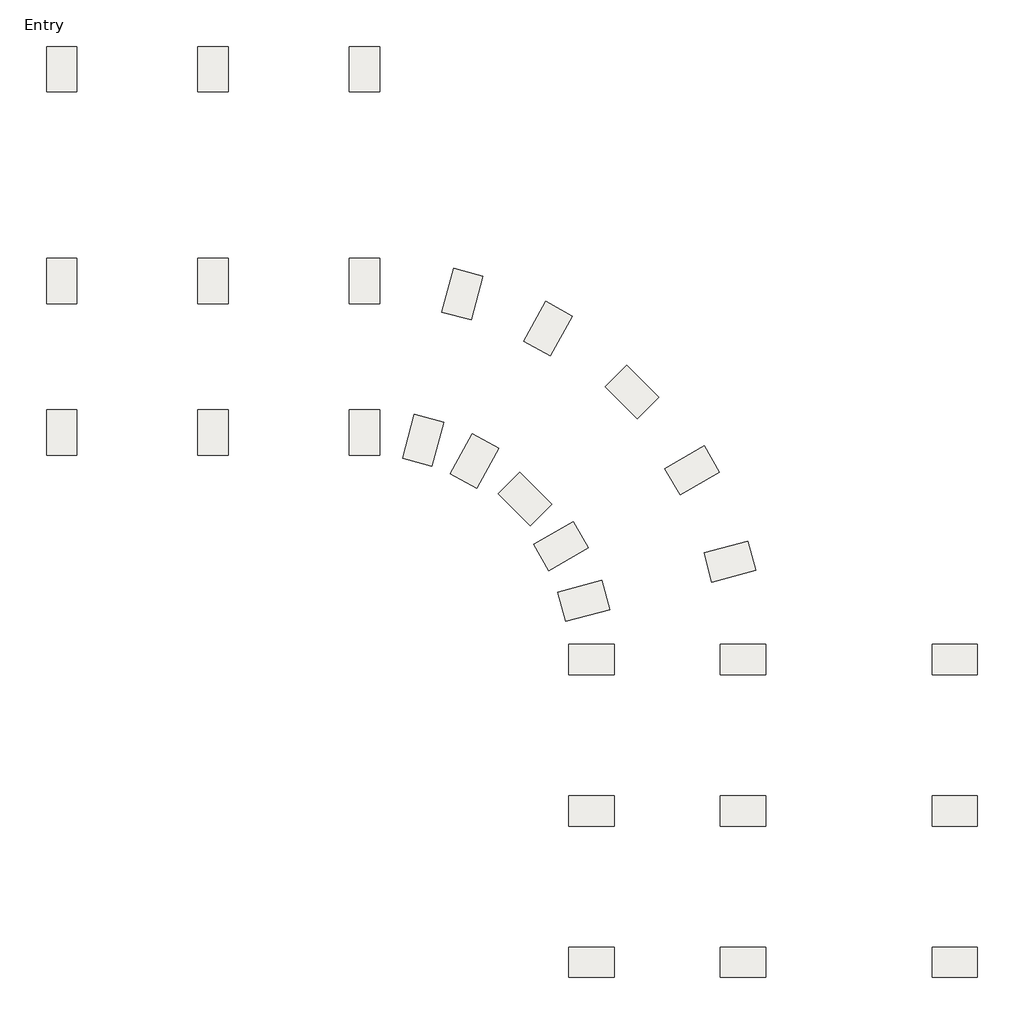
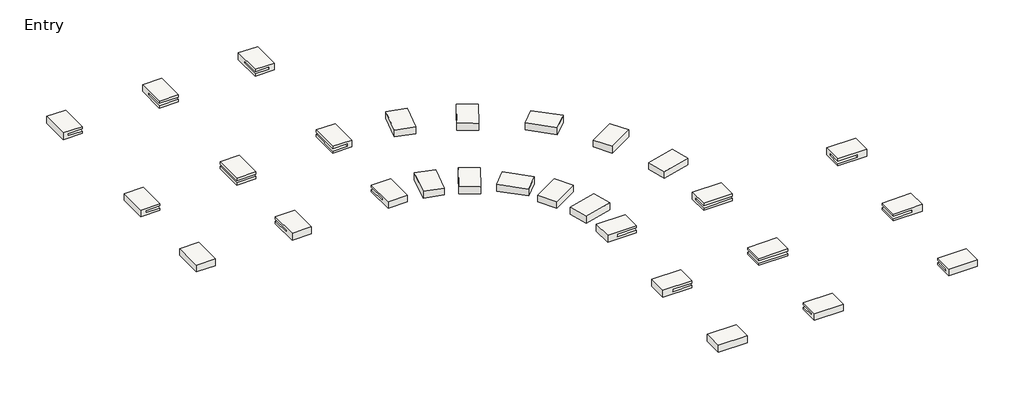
# One storey: 28 slabs.
"""IFC4 building model written with IfcOpenShell, lengths in millimetres."""

from ifc_helpers import new_model, si_unit, frame, origin, place, context, project, spatial, polyline, outline, extrude, faceted_brep, transform, mapped, element, save
from components import slab_5ba74754

model = new_model("IFC4")

# Units and contexts
model_context = context("Model", 3, world=origin())
ifc_project = project(units=[si_unit("LENGTHUNIT", "METRE", prefix="MILLI")], contexts=[model_context])

# Site, building, storey
site = spatial("IfcSite", under=ifc_project)
building = spatial("IfcBuilding", under=site)
storey = spatial("IfcBuildingStorey", under=building, Name="Entry", Elevation=0.0)

# Slabs
placement = place(None, origin())
element("IfcSlab", 1, ObjectType="Footing-Rectangular : 72\" x 48\" x 18\"", at=placement, inside=storey, context=model_context, shape_type="Brep", body=[
    faceted_brep([(-27022.0148109, 12313.049478, -1676.4), (-25802.8148109, 12313.049478, -1676.4), (-25802.8148109, 14141.849478, -1676.4), (-27022.0148109, 14141.849478, -1676.4), (-27022.0148109, 12313.049478, -2133.6), (-27022.0148109, 14141.849478, -2133.6), (-25802.8148109, 14141.849478, -2133.6), (-25802.8148109, 12313.049478, -2133.6), (-27022.0148109, 12313.049478, -1828.8), (-26107.6148109, 12313.049478, -1828.8), (-26107.6148109, 12313.049478, -1981.2), (-27022.0148109, 12313.049478, -1981.2), (-27022.0148109, 13532.249478, -1981.2), (-27022.0148109, 13532.249478, -1828.8), (-26107.6148109, 13532.249478, -1981.2), (-26107.6148109, 13532.249478, -1828.8)], [[[0, 1, 2, 3]], [[4, 5, 6, 7]], [[1, 0, 8, 9, 10, 11, 4, 7]], [[2, 1, 7, 6]], [[3, 2, 6, 5]], [[0, 3, 5, 4, 11, 12, 13, 8]], [[14, 12, 11, 10]], [[15, 9, 8, 13]], [[15, 14, 10, 9]], [[14, 15, 13, 12]]]),
])
element("IfcSlab", 2, ObjectType="Footing-Rectangular : 72\" x 48\" x 18\"", at=placement, inside=storey, context=model_context, shape_type="SweptSolid", body=[
    extrude(outline(polyline([(12313.049478, -1676.4), (14141.849478, -1676.4), (14141.849478, -2133.6), (12313.049478, -2133.6), (12313.049478, -1981.2), (13532.249478, -1981.2), (13532.249478, -1828.8), (12313.049478, -1828.8), (12313.049478, -1676.4)])), frame((-33118.0148109, 0.0, 0.0), z_axis=(1.0, 0.0, 0.0), x_axis=(0.0, 1.0, 0.0)), (0.0, 0.0, 1.0), 1219.2),
])
element("IfcSlab", 3, ObjectType="Footing-Rectangular : 72\" x 48\" x 18\"", at=placement, inside=storey, context=model_context, shape_type="Brep", body=[
    faceted_brep([(-39214.0148109, 12313.049478, -1676.4), (-37994.8148109, 12313.049478, -1676.4), (-37994.8148109, 14141.849478, -1676.4), (-39214.0148109, 14141.849478, -1676.4), (-39214.0148109, 12313.049478, -2133.6), (-39214.0148109, 14141.849478, -2133.6), (-37994.8148109, 14141.849478, -2133.6), (-37994.8148109, 12313.049478, -2133.6), (-37994.8148109, 12313.049478, -1981.2), (-38909.2148109, 12313.049478, -1981.2), (-38909.2148109, 12313.049478, -1828.8), (-37994.8148109, 12313.049478, -1828.8), (-37994.8148109, 13532.249478, -1828.8), (-37994.8148109, 13532.249478, -1981.2), (-38909.2148109, 13532.249478, -1981.2), (-38909.2148109, 13532.249478, -1828.8)], [[[0, 1, 2, 3]], [[4, 5, 6, 7]], [[1, 0, 4, 7, 8, 9, 10, 11]], [[2, 1, 11, 12, 13, 8, 7, 6]], [[3, 2, 6, 5]], [[0, 3, 5, 4]], [[13, 14, 9, 8]], [[10, 15, 12, 11]], [[14, 15, 10, 9]], [[15, 14, 13, 12]]]),
])
element("IfcSlab", 4, ObjectType="Footing-Rectangular : 72\" x 48\" x 18\"", at=placement, inside=storey, context=model_context, shape_type="SweptSolid", body=[
    extrude(outline(polyline([(-1676.4, -25802.8148109), (-1676.4, -27022.0148109), (-1828.8, -27022.0148109), (-1828.8, -26107.6148109), (-1981.2, -26107.6148109), (-1981.2, -27022.0148109), (-2133.6, -27022.0148109), (-2133.6, -25802.8148109), (-1676.4, -25802.8148109)])), frame((0.0, 3778.649478, 0.0), z_axis=(0.0, 1.0, 0.0), x_axis=(0.0, 0.0, 1.0)), (0.0, 0.0, 1.0), 1828.8),
])
element("IfcSlab", 5, ObjectType="Footing-Rectangular : 72\" x 48\" x 18\"", at=placement, inside=storey, context=model_context, shape_type="Brep", body=[
    faceted_brep([(-25802.8148109, -488.550522, -1676.4), (-27022.0148109, -488.550522, -1676.4), (-27022.0148109, -2317.350522, -1676.4), (-25802.8148109, -2317.350522, -1676.4), (-25802.8148109, -488.550522, -2133.6), (-25802.8148109, -2317.350522, -2133.6), (-27022.0148109, -2317.350522, -2133.6), (-27022.0148109, -488.550522, -2133.6), (-27022.0148109, -488.550522, -1981.2), (-26107.6148109, -488.550522, -1981.2), (-26107.6148109, -488.550522, -1828.8), (-27022.0148109, -488.550522, -1828.8), (-27022.0148109, -1707.750522, -1828.8), (-27022.0148109, -1707.750522, -1981.2), (-26107.6148109, -1707.750522, -1981.2), (-26107.6148109, -1707.750522, -1828.8)], [[[0, 1, 2, 3]], [[4, 5, 6, 7]], [[1, 0, 4, 7, 8, 9, 10, 11]], [[2, 1, 11, 12, 13, 8, 7, 6]], [[3, 2, 6, 5]], [[0, 3, 5, 4]], [[13, 14, 9, 8]], [[10, 15, 12, 11]], [[14, 15, 10, 9]], [[15, 14, 13, 12]]]),
])
element("IfcSlab", 6, ObjectType="Footing-Rectangular : 72\" x 48\" x 18\"", at=placement, inside=storey, context=model_context, shape_type="SweptSolid", body=[
    extrude(outline(polyline([(-2317.350522, -1676.4), (-488.550522, -1676.4), (-488.550522, -1828.8), (-1707.750522, -1828.8), (-1707.750522, -1981.2), (-488.550522, -1981.2), (-488.550522, -2133.6), (-2317.350522, -2133.6), (-2317.350522, -1676.4)])), frame((-33118.0148109, 0.0, 0.0), z_axis=(1.0, 0.0, 0.0), x_axis=(0.0, 1.0, 0.0)), (0.0, 0.0, 1.0), 1219.2),
])
element("IfcSlab", 7, ObjectType="Footing-Rectangular : 72\" x 48\" x 18\"", at=placement, inside=storey, context=model_context, shape_type="Brep", body=[
    faceted_brep([(-39214.0148109, -2317.350522, -1676.4), (-37994.8148109, -2317.350522, -1676.4), (-37994.8148109, -488.550522, -1676.4), (-39214.0148109, -488.550522, -1676.4), (-39214.0148109, -2317.350522, -2133.6), (-39214.0148109, -488.550522, -2133.6), (-37994.8148109, -488.550522, -2133.6), (-37994.8148109, -2317.350522, -2133.6), (-37994.8148109, -488.550522, -1981.2), (-37994.8148109, -1707.750522, -1981.2), (-37994.8148109, -1707.750522, -1828.8), (-37994.8148109, -488.550522, -1828.8), (-38909.2148109, -488.550522, -1828.8), (-38909.2148109, -488.550522, -1981.2), (-38909.2148109, -1707.750522, -1981.2), (-38909.2148109, -1707.750522, -1828.8)], [[[0, 1, 2, 3]], [[4, 5, 6, 7]], [[1, 0, 4, 7]], [[2, 1, 7, 6, 8, 9, 10, 11]], [[3, 2, 11, 12, 13, 8, 6, 5]], [[0, 3, 5, 4]], [[13, 14, 9, 8]], [[10, 15, 12, 11]], [[14, 15, 10, 9]], [[15, 14, 13, 12]]]),
])
element("IfcSlab", 8, ObjectType="Footing-Rectangular : 72\" x 48\" x 18\"", at=placement, inside=storey, context=model_context, shape_type="SweptSolid", body=[
    extrude(outline(polyline([(-31898.8148109, 3778.649478), (-33118.0148109, 3778.649478), (-33118.0148109, 5607.449478), (-31898.8148109, 5607.449478), (-31898.8148109, 3778.649478)])), frame((0.0, 0.0, -1828.8), z_axis=(0.0, 0.0, 1.0), x_axis=(1.0, 0.0, 0.0)), (0.0, 0.0, 1.0), 152.4),
    extrude(outline(polyline([(-33118.0148109, 3778.649478), (-33118.0148109, 5607.449478), (-31898.8148109, 5607.449478), (-31898.8148109, 3778.649478), (-33118.0148109, 3778.649478)])), frame((0.0, 0.0, -2133.6), z_axis=(0.0, 0.0, 1.0), x_axis=(1.0, 0.0, 0.0)), (0.0, 0.0, 1.0), 152.4),
])
element("IfcSlab", 9, ObjectType="Footing-Rectangular : 72\" x 48\" x 18\"", at=placement, inside=storey, context=model_context, shape_type="SweptSolid", body=[
    extrude(outline(polyline([(-1676.4, -37994.8148109), (-1676.4, -39214.0148109), (-2133.6, -39214.0148109), (-2133.6, -37994.8148109), (-1981.2, -37994.8148109), (-1981.2, -38909.2148109), (-1828.8, -38909.2148109), (-1828.8, -37994.8148109), (-1676.4, -37994.8148109)])), frame((0.0, 3778.649478, 0.0), z_axis=(0.0, 1.0, 0.0), x_axis=(0.0, 0.0, 1.0)), (0.0, 0.0, 1.0), 1828.8),
])
element("IfcSlab", 10, ObjectType="Footing-Rectangular : 72\" x 48\" x 18\"", at=placement, inside=storey, context=model_context, shape_type="Brep", body=[
    faceted_brep([(-3552.4148109, -9937.350522, -1676.4), (-3552.4148109, -11156.550522, -1676.4), (-1723.6148109, -11156.550522, -1676.4), (-1723.6148109, -9937.350522, -1676.4), (-1723.6148109, -11156.550522, -2133.6), (-3552.4148109, -11156.550522, -2133.6), (-3552.4148109, -9937.350522, -2133.6), (-1723.6148109, -9937.350522, -2133.6), (-3552.4148109, -11156.550522, -1981.2), (-3552.4148109, -10242.150522, -1981.2), (-3552.4148109, -10242.150522, -1828.8), (-3552.4148109, -11156.550522, -1828.8), (-2333.2148109, -11156.550522, -1828.8), (-2333.2148109, -11156.550522, -1981.2), (-2333.2148109, -10242.150522, -1981.2), (-2333.2148109, -10242.150522, -1828.8)], [[[0, 1, 2, 3]], [[4, 5, 6, 7]], [[1, 0, 6, 5, 8, 9, 10, 11]], [[0, 3, 7, 6]], [[3, 2, 4, 7]], [[2, 1, 11, 12, 13, 8, 5, 4]], [[14, 9, 8, 13]], [[15, 12, 11, 10]], [[14, 15, 10, 9]], [[15, 14, 13, 12]]]),
])
element("IfcSlab", 11, ObjectType="Footing-Rectangular : 72\" x 48\" x 18\"", at=placement, inside=storey, context=model_context, shape_type="SweptSolid", body=[
    extrude(outline(polyline([(-1676.4, -1723.6148109), (-1676.4, -3552.4148109), (-1828.8, -3552.4148109), (-1828.8, -2333.2148109), (-1981.2, -2333.2148109), (-1981.2, -3552.4148109), (-2133.6, -3552.4148109), (-2133.6, -1723.6148109), (-1676.4, -1723.6148109)])), frame((0.0, -17252.550522, 0.0), z_axis=(0.0, 1.0, 0.0), x_axis=(0.0, 0.0, 1.0)), (0.0, 0.0, 1.0), 1219.2),
])
element("IfcSlab", 12, ObjectType="Footing-Rectangular : 72\" x 48\" x 18\"", at=placement, inside=storey, context=model_context, shape_type="Brep", body=[
    faceted_brep([(-3552.4148109, -22129.350522, -1676.4), (-3552.4148109, -23348.550522, -1676.4), (-1723.6148109, -23348.550522, -1676.4), (-1723.6148109, -22129.350522, -1676.4), (-1723.6148109, -23348.550522, -2133.6), (-3552.4148109, -23348.550522, -2133.6), (-3552.4148109, -22129.350522, -2133.6), (-1723.6148109, -22129.350522, -2133.6), (-3552.4148109, -22129.350522, -1828.8), (-3552.4148109, -23043.750522, -1828.8), (-3552.4148109, -23043.750522, -1981.2), (-3552.4148109, -22129.350522, -1981.2), (-2333.2148109, -22129.350522, -1981.2), (-2333.2148109, -22129.350522, -1828.8), (-2333.2148109, -23043.750522, -1981.2), (-2333.2148109, -23043.750522, -1828.8)], [[[0, 1, 2, 3]], [[4, 5, 6, 7]], [[1, 0, 8, 9, 10, 11, 6, 5]], [[0, 3, 7, 6, 11, 12, 13, 8]], [[3, 2, 4, 7]], [[2, 1, 5, 4]], [[10, 14, 12, 11]], [[13, 15, 9, 8]], [[15, 14, 10, 9]], [[14, 15, 13, 12]]]),
])
element("IfcSlab", 13, ObjectType="Footing-Rectangular : 72\" x 48\" x 18\"", at=placement, inside=storey, context=model_context, shape_type="SweptSolid", body=[
    extrude(outline(polyline([(-11156.550522, -1676.4), (-9937.350522, -1676.4), (-9937.350522, -2133.6), (-11156.550522, -2133.6), (-11156.550522, -1981.2), (-10242.150522, -1981.2), (-10242.150522, -1828.8), (-11156.550522, -1828.8), (-11156.550522, -1676.4)])), frame((-12086.8148109, 0.0, 0.0), z_axis=(1.0, 0.0, 0.0), x_axis=(0.0, 1.0, 0.0)), (0.0, 0.0, 1.0), 1828.8),
])
element("IfcSlab", 14, ObjectType="Footing-Rectangular : 72\" x 48\" x 18\"", at=placement, inside=storey, context=model_context, shape_type="Brep", body=[
    faceted_brep([(-16354.0148109, -11156.550522, -1676.4), (-16354.0148109, -9937.350522, -1676.4), (-18182.8148109, -9937.350522, -1676.4), (-18182.8148109, -11156.550522, -1676.4), (-18182.8148109, -9937.350522, -2133.6), (-16354.0148109, -9937.350522, -2133.6), (-16354.0148109, -11156.550522, -2133.6), (-18182.8148109, -11156.550522, -2133.6), (-16354.0148109, -11156.550522, -1828.8), (-16354.0148109, -10242.150522, -1828.8), (-16354.0148109, -10242.150522, -1981.2), (-16354.0148109, -11156.550522, -1981.2), (-17573.2148109, -11156.550522, -1981.2), (-17573.2148109, -11156.550522, -1828.8), (-17573.2148109, -10242.150522, -1981.2), (-17573.2148109, -10242.150522, -1828.8)], [[[0, 1, 2, 3]], [[4, 5, 6, 7]], [[1, 0, 8, 9, 10, 11, 6, 5]], [[0, 3, 7, 6, 11, 12, 13, 8]], [[3, 2, 4, 7]], [[2, 1, 5, 4]], [[10, 14, 12, 11]], [[13, 15, 9, 8]], [[15, 14, 10, 9]], [[14, 15, 13, 12]]]),
])
element("IfcSlab", 15, ObjectType="Footing-Rectangular : 72\" x 48\" x 18\"", at=placement, inside=storey, context=model_context, shape_type="SweptSolid", body=[
    extrude(outline(polyline([(-1676.4, -16354.0148109), (-1676.4, -18182.8148109), (-2133.6, -18182.8148109), (-2133.6, -16354.0148109), (-1981.2, -16354.0148109), (-1981.2, -17573.2148109), (-1828.8, -17573.2148109), (-1828.8, -16354.0148109), (-1676.4, -16354.0148109)])), frame((0.0, -17252.550522, 0.0), z_axis=(0.0, 1.0, 0.0), x_axis=(0.0, 0.0, 1.0)), (0.0, 0.0, 1.0), 1219.2),
])
element("IfcSlab", 16, ObjectType="Footing-Rectangular : 72\" x 48\" x 18\"", at=placement, inside=storey, context=model_context, shape_type="Brep", body=[
    faceted_brep([(-18182.8148109, -22129.350522, -1676.4), (-18182.8148109, -23348.550522, -1676.4), (-16354.0148109, -23348.550522, -1676.4), (-16354.0148109, -22129.350522, -1676.4), (-16354.0148109, -23348.550522, -2133.6), (-18182.8148109, -23348.550522, -2133.6), (-18182.8148109, -22129.350522, -2133.6), (-16354.0148109, -22129.350522, -2133.6), (-16354.0148109, -22129.350522, -1828.8), (-17573.2148109, -22129.350522, -1828.8), (-17573.2148109, -22129.350522, -1981.2), (-16354.0148109, -22129.350522, -1981.2), (-16354.0148109, -23043.750522, -1981.2), (-16354.0148109, -23043.750522, -1828.8), (-17573.2148109, -23043.750522, -1981.2), (-17573.2148109, -23043.750522, -1828.8)], [[[0, 1, 2, 3]], [[4, 5, 6, 7]], [[1, 0, 6, 5]], [[0, 3, 8, 9, 10, 11, 7, 6]], [[3, 2, 4, 7, 11, 12, 13, 8]], [[2, 1, 5, 4]], [[10, 14, 12, 11]], [[13, 15, 9, 8]], [[15, 14, 10, 9]], [[14, 15, 13, 12]]]),
])
element("IfcSlab", 17, ObjectType="Footing-Rectangular : 72\" x 48\" x 18\"", at=placement, inside=storey, context=model_context, shape_type="SweptSolid", body=[
    extrude(outline(polyline([(-12086.8148109, -17252.550522), (-12086.8148109, -16033.350522), (-10258.0148109, -16033.350522), (-10258.0148109, -17252.550522), (-12086.8148109, -17252.550522)])), frame((0.0, 0.0, -1828.8), z_axis=(0.0, 0.0, 1.0), x_axis=(1.0, 0.0, 0.0)), (0.0, 0.0, 1.0), 152.4),
    extrude(outline(polyline([(-10258.0148109, -17252.550522), (-12086.8148109, -17252.550522), (-12086.8148109, -16033.350522), (-10258.0148109, -16033.350522), (-10258.0148109, -17252.550522)])), frame((0.0, 0.0, -2133.6), z_axis=(0.0, 0.0, 1.0), x_axis=(1.0, 0.0, 0.0)), (0.0, 0.0, 1.0), 152.4),
])
element("IfcSlab", 18, ObjectType="Footing-Rectangular : 72\" x 48\" x 18\"", at=placement, inside=storey, context=model_context, shape_type="SweptSolid", body=[
    extrude(outline(polyline([(-23348.550522, -1676.4), (-22129.350522, -1676.4), (-22129.350522, -1828.8), (-23043.750522, -1828.8), (-23043.750522, -1981.2), (-22129.350522, -1981.2), (-22129.350522, -2133.6), (-23348.550522, -2133.6), (-23348.550522, -1676.4)])), frame((-12086.8148109, 0.0, 0.0), z_axis=(1.0, 0.0, 0.0), x_axis=(0.0, 1.0, 0.0)), (0.0, 0.0, 1.0), 1828.8),
])
slab_shape = slab_5ba74754(model_context)
element("IfcSlab", 19, ObjectType="Footing-Rectangular : 72\" x 48\" x 18\"", at=placement, inside=storey, context=model_context, shape_type="MappedRepresentation", body=[
    mapped(slab_shape, transform((-11691.7052182, -6602.5482746, -1676.4), x_axis=(-0.258819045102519, 0.965925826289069, 0.0), y_axis=(-0.965925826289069, -0.258819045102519, 0.0), z_axis=(0.0, 0.0, 1.0))),
])
element("IfcSlab", 20, ObjectType="Footing-Rectangular : 72\" x 48\" x 18\"", at=placement, inside=storey, context=model_context, shape_type="MappedRepresentation", body=[
    mapped(slab_shape, transform((-13214.1876572, -2926.950522, -1676.4), x_axis=(-0.4999999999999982, 0.8660254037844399, 0.0), y_axis=(-0.8660254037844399, -0.4999999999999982, 0.0), z_axis=(0.0, 0.0, 1.0))),
])
element("IfcSlab", 21, ObjectType="Footing-Rectangular : 72\" x 48\" x 18\"", at=placement, inside=storey, context=model_context, shape_type="MappedRepresentation", body=[
    mapped(slab_shape, transform((-15636.1074656, 229.3568233, -1676.4), x_axis=(0.7071067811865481, 0.7071067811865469, 0.0), y_axis=(-0.7071067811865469, 0.7071067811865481, 0.0), z_axis=(0.0, 0.0, 1.0))),
])
element("IfcSlab", 22, ObjectType="Footing-Rectangular : 72\" x 48\" x 18\"", at=placement, inside=storey, context=model_context, shape_type="MappedRepresentation", body=[
    mapped(slab_shape, transform((-19023.9161983, 2782.2538148, -1676.4), x_axis=(0.8746197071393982, -0.4848096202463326, 0.0), y_axis=(0.4848096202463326, 0.8746197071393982, 0.0), z_axis=(0.0, 0.0, 1.0))),
])
element("IfcSlab", 23, ObjectType="Footing-Rectangular : 72\" x 48\" x 18\"", at=placement, inside=storey, context=model_context, shape_type="MappedRepresentation", body=[
    mapped(slab_shape, transform((-22468.0125635, 4173.7590707, -1676.4), x_axis=(0.9659258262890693, -0.25881904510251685, 0.0), y_axis=(0.25881904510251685, 0.9659258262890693, 0.0), z_axis=(0.0, 0.0, 1.0))),
])
element("IfcSlab", 24, ObjectType="Footing-Rectangular : 72\" x 48\" x 18\"", at=placement, inside=storey, context=model_context, shape_type="MappedRepresentation", body=[
    mapped(slab_shape, transform((-17579.9890553, -8180.3091736, -1676.4), x_axis=(-0.258819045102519, 0.965925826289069, 0.0), y_axis=(-0.965925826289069, -0.258819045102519, 0.0), z_axis=(0.0, 0.0, 1.0))),
])
element("IfcSlab", 25, ObjectType="Footing-Rectangular : 72\" x 48\" x 18\"", at=placement, inside=storey, context=model_context, shape_type="MappedRepresentation", body=[
    mapped(slab_shape, transform((-18493.4785187, -5974.950522, -1676.4), x_axis=(-0.4999999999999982, 0.8660254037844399, 0.0), y_axis=(-0.8660254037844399, -0.4999999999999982, 0.0), z_axis=(0.0, 0.0, 1.0))),
])
element("IfcSlab", 26, ObjectType="Footing-Rectangular : 72\" x 48\" x 18\"", at=placement, inside=storey, context=model_context, shape_type="MappedRepresentation", body=[
    mapped(slab_shape, transform((-19946.6304037, -4081.1661148, -1676.4), x_axis=(0.7071067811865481, 0.7071067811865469, 0.0), y_axis=(-0.7071067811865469, 0.7071067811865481, 0.0), z_axis=(0.0, 0.0, 1.0))),
])
element("IfcSlab", 27, ObjectType="Footing-Rectangular : 72\" x 48\" x 18\"", at=placement, inside=storey, context=model_context, shape_type="MappedRepresentation", body=[
    mapped(slab_shape, transform((-21979.3156433, -2549.4279199, -1676.4), x_axis=(0.8746197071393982, -0.4848096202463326, 0.0), y_axis=(0.4848096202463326, 0.8746197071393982, 0.0), z_axis=(0.0, 0.0, 1.0))),
])
element("IfcSlab", 28, ObjectType="Footing-Rectangular : 72\" x 48\" x 18\"", at=placement, inside=storey, context=model_context, shape_type="MappedRepresentation", body=[
    mapped(slab_shape, transform((-24045.7734625, -1714.5247664, -1676.4), x_axis=(0.9659258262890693, -0.25881904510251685, 0.0), y_axis=(0.25881904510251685, 0.9659258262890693, 0.0), z_axis=(0.0, 0.0, 1.0))),
])

save(model, "model.ifc")
